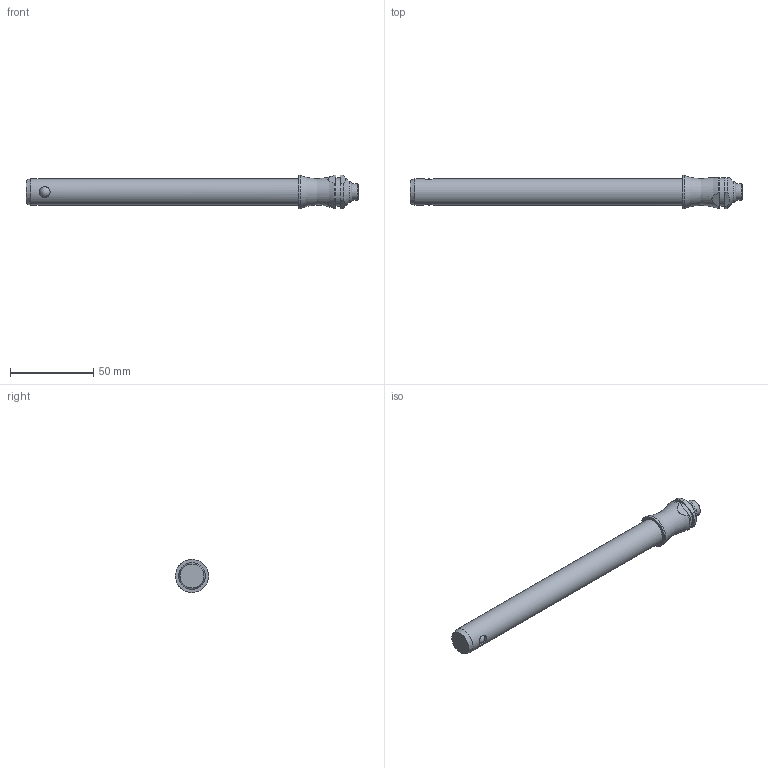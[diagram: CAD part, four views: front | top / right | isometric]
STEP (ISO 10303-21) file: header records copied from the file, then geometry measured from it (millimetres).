
FILE_DESCRIPTION( ( 'STEP AP203' ), '1' );
FILE_NAME( 'C:/Temp/Ganter_Step_05_03_2020/data/3_1/gn113_3/Stainless Steel-Ball lock pin GN 113.3-16-150 (activated).stp', '2020-03-12T08:19:01', ( 'License CC BY-ND 4.0' ), ( 'CADENAS' ), ' ', 'PARTsolutions', ' ' );
FILE_SCHEMA( ( 'CONFIG_CONTROL_DESIGN' ) );
Length unit declared in the file: millimetre
Products named in the file (1): _Stainless Steel-Ball lock pin GN 113.3-16-150 (activated)
Bounding box: 199.75 x 20 x 20 mm (x, y, z)
Volume: 40522.6 mm3; surface area: 10850.3 mm2
Topology: 1 solids, 1 shells, 30 faces, 68 edges, 43 vertices
Faces by surface type: cylinder 12, plane 11, cone 3, torus 2, sphere 2
Full cylindrical faces by diameter (mm): 6.5 x2, 10 x1, 16 x1, 17 x1, 20 x1
Entity records: 1014 total; most frequent: CARTESIAN_POINT 364, DIRECTION 130, ORIENTED_EDGE 102, AXIS2_PLACEMENT_3D 56, EDGE_CURVE 51, EDGE_LOOP 46, VERTEX_POINT 40, FACE_OUTER_BOUND 38
